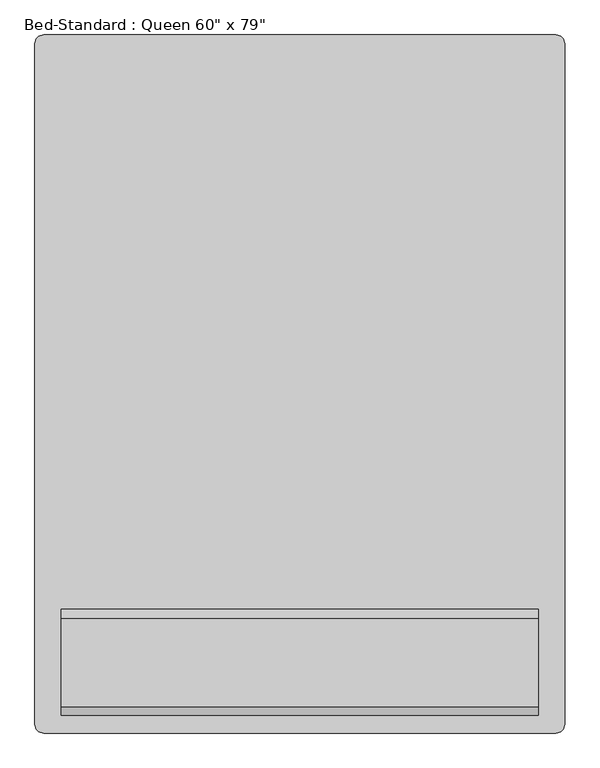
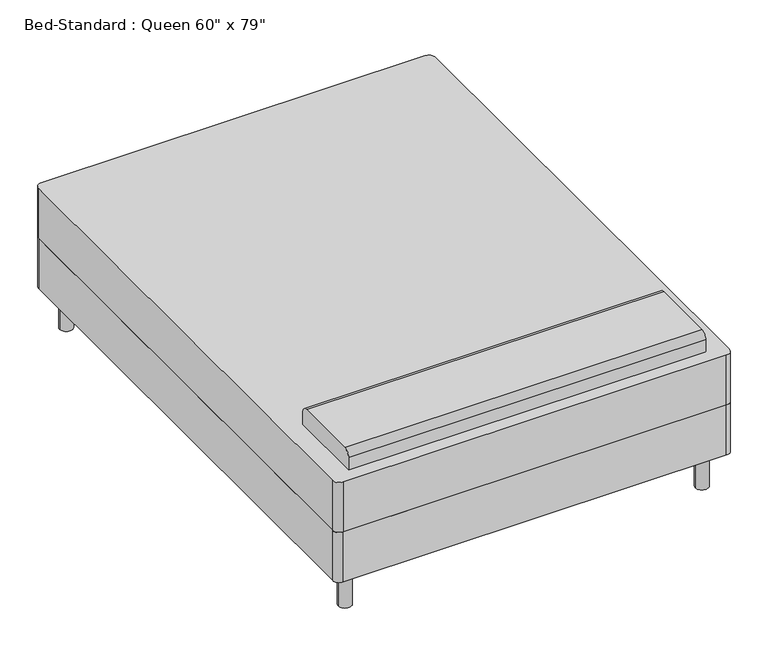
"""IFC4 building model written with IfcOpenShell, lengths in millimetres: furniture geometry."""

from ifc_helpers import new_model, si_unit, point, frame, frame_2d, origin, origin_with_axes, place, context, project, spatial, polyline, circle_curve, trimmed, segment, composite_curve, outline, extrude, source, transform, mapped, element, save


def furniture_959b2c30(model_context):
    return source(origin(), model_context, "Body", "SweptSolid", [
        extrude(outline(composite_curve([segment(trimmed(circle_curve(frame_2d((-465.1114754, 1023.495082)), 25.4), [point((-490.5114754, 1023.495082))], [point((-465.1114754, 1048.895082))], False, "CARTESIAN"), True, "CONTINUOUS"), segment(polyline([(-465.1114754, 1048.895082), (1008.0885246, 1048.895082)]), True, "CONTINUOUS"), segment(trimmed(circle_curve(frame_2d((1008.0885246, 1023.495082)), 25.4), [point((1008.0885246, 1048.895082))], [point((1033.4885246, 1023.495082))], False, "CARTESIAN"), True, "CONTINUOUS"), segment(polyline([(1033.4885246, 1023.495082), (1033.4885246, -932.304918)]), True, "CONTINUOUS"), segment(trimmed(circle_curve(frame_2d((1008.0885246, -932.304918)), 25.4), [point((1033.4885246, -932.304918))], [point((1008.0885246, -957.704918))], False, "CARTESIAN"), True, "CONTINUOUS"), segment(polyline([(1008.0885246, -957.704918), (-465.1114754, -957.704918)]), True, "CONTINUOUS"), segment(trimmed(circle_curve(frame_2d((-465.1114754, -932.304918)), 25.4), [point((-465.1114754, -957.704918))], [point((-490.5114754, -932.304918))], False, "CARTESIAN"), True, "CONTINUOUS"), segment(polyline([(-490.5114754, -932.304918), (-490.5114754, 1023.495082)]), True, "CONTINUOUS")], self_intersect=False)), frame((0.0, 0.0, 152.4), z_axis=(0.0, 0.0, 1.0), x_axis=(1.0, 0.0, 0.0)), (0.0, 0.0, 1.0), 203.2),
        extrude(outline(composite_curve([segment(polyline([(-602.104918, 558.8), (-906.904918, 558.8), (-906.904918, 609.6)]), True, "CONTINUOUS"), segment(trimmed(circle_curve(frame_2d((-881.504918, 609.6)), 25.4), [point((-906.904918, 609.6))], [point((-881.504918, 635.0))], False, "CARTESIAN"), True, "CONTINUOUS"), segment(polyline([(-881.504918, 635.0), (-627.504918, 635.0)]), True, "CONTINUOUS"), segment(trimmed(circle_curve(frame_2d((-627.504918, 609.6)), 25.4), [point((-627.504918, 635.0))], [point((-602.104918, 609.6))], False, "CARTESIAN"), True, "CONTINUOUS"), segment(polyline([(-602.104918, 609.6), (-602.104918, 558.8)]), True, "CONTINUOUS")], self_intersect=False)), frame((-414.3114754, 0.0, 0.0), z_axis=(1.0, 0.0, 0.0), x_axis=(0.0, 1.0, 0.0)), (0.0, 0.0, 1.0), 1371.6),
        extrude(outline(composite_curve([segment(trimmed(circle_curve(frame_2d((-414.3114754, -881.504918)), 25.4), [point((-439.7114754, -881.504918))], [point((-388.9114754, -881.504918))], False, "CARTESIAN"), True, "CONTINUOUS"), segment(trimmed(circle_curve(frame_2d((-414.3114754, -881.504918)), 25.4), [point((-388.9114754, -881.504918))], [point((-439.7114754, -881.504918))], False, "CARTESIAN"), True, "CONTINUOUS")], self_intersect=False)), origin_with_axes(), (0.0, 0.0, 1.0), 152.4),
        extrude(outline(composite_curve([segment(trimmed(circle_curve(frame_2d((957.2885246, -881.504918)), 25.4), [point((931.8885246, -881.504918))], [point((982.6885246, -881.504918))], False, "CARTESIAN"), True, "CONTINUOUS"), segment(trimmed(circle_curve(frame_2d((957.2885246, -881.504918)), 25.4), [point((982.6885246, -881.504918))], [point((931.8885246, -881.504918))], False, "CARTESIAN"), True, "CONTINUOUS")], self_intersect=False)), origin_with_axes(), (0.0, 0.0, 1.0), 152.4),
        extrude(outline(composite_curve([segment(trimmed(circle_curve(frame_2d((957.2885246, 972.695082)), 25.4), [point((931.8885246, 972.695082))], [point((982.6885246, 972.695082))], False, "CARTESIAN"), True, "CONTINUOUS"), segment(trimmed(circle_curve(frame_2d((957.2885246, 972.695082)), 25.4), [point((982.6885246, 972.695082))], [point((931.8885246, 972.695082))], False, "CARTESIAN"), True, "CONTINUOUS")], self_intersect=False)), origin_with_axes(), (0.0, 0.0, 1.0), 152.4),
        extrude(outline(composite_curve([segment(trimmed(circle_curve(frame_2d((-414.3114754, 972.695082)), 25.4), [point((-439.7114754, 972.695082))], [point((-388.9114754, 972.695082))], False, "CARTESIAN"), True, "CONTINUOUS"), segment(trimmed(circle_curve(frame_2d((-414.3114754, 972.695082)), 25.4), [point((-388.9114754, 972.695082))], [point((-439.7114754, 972.695082))], False, "CARTESIAN"), True, "CONTINUOUS")], self_intersect=False)), origin_with_axes(), (0.0, 0.0, 1.0), 152.4),
        extrude(outline(composite_curve([segment(trimmed(circle_curve(frame_2d((-465.1114754, -932.304918)), 25.4), [point((-465.1114754, -957.704918))], [point((-490.5114754, -932.304918))], False, "CARTESIAN"), True, "CONTINUOUS"), segment(polyline([(-490.5114754, -932.304918), (-490.5114754, 1023.495082)]), True, "CONTINUOUS"), segment(trimmed(circle_curve(frame_2d((-465.1114754, 1023.495082)), 25.4), [point((-490.5114754, 1023.495082))], [point((-465.1114754, 1048.895082))], False, "CARTESIAN"), True, "CONTINUOUS"), segment(polyline([(-465.1114754, 1048.895082), (1008.0885246, 1048.895082)]), True, "CONTINUOUS"), segment(trimmed(circle_curve(frame_2d((1008.0885246, 1023.495082)), 25.4), [point((1008.0885246, 1048.895082))], [point((1033.4885246, 1023.495082))], False, "CARTESIAN"), True, "CONTINUOUS"), segment(polyline([(1033.4885246, 1023.495082), (1033.4885246, -932.304918)]), True, "CONTINUOUS"), segment(trimmed(circle_curve(frame_2d((1008.0885246, -932.304918)), 25.4), [point((1033.4885246, -932.304918))], [point((1008.0885246, -957.704918))], False, "CARTESIAN"), True, "CONTINUOUS"), segment(polyline([(1008.0885246, -957.704918), (-465.1114754, -957.704918)]), True, "CONTINUOUS")], self_intersect=False)), frame((0.0, 0.0, 355.6), z_axis=(0.0, 0.0, 1.0), x_axis=(1.0, 0.0, 0.0)), (0.0, 0.0, 1.0), 203.2),
    ])


if __name__ == "__main__":
    model = new_model("IFC4")
    model_context = context("Model", 3, world=origin())
    ifc_project = project(units=[si_unit("LENGTHUNIT", "METRE", prefix="MILLI")], contexts=[model_context])
    site = spatial("IfcSite", under=ifc_project)
    building = spatial("IfcBuilding", under=site)
    placement = place(None, origin())
    furniture_shape = furniture_959b2c30(model_context)
    element("IfcFurniture", 1, ObjectType="Bed-Standard : Queen 60\" x 79\"", at=placement, inside=building, context=model_context, shape_type="MappedRepresentation", body=[
        mapped(furniture_shape, transform((0.0, 0.0, 0.0), x_axis=(1.0, 0.0, 0.0), y_axis=(0.0, 1.0, 0.0), z_axis=(0.0, 0.0, 1.0))),
    ])
    save(model, "model.ifc")
